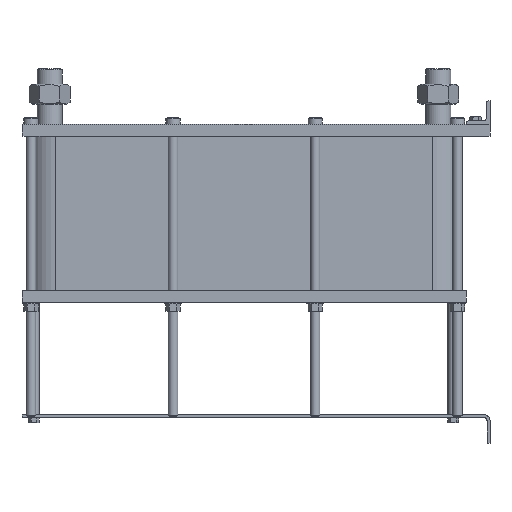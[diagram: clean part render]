
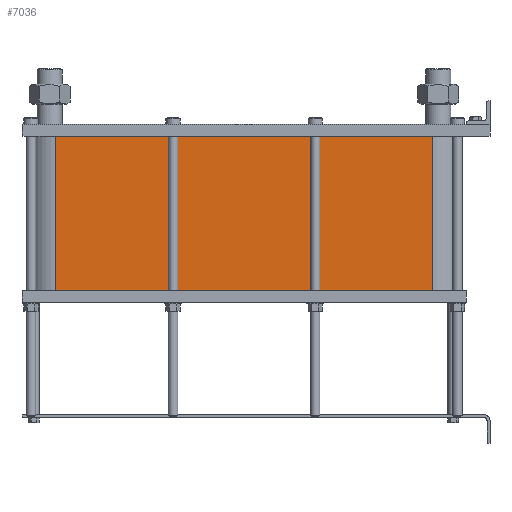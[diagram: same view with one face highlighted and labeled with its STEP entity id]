
A CAD part, left-side view. The second image highlights one B-rep face of the part: STEP entity #7036.
In plain terms, the highlighted planar face has unit normal (-1, 0, 0).
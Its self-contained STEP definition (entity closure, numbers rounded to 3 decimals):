
#999=LINE('',#15640,#1553);
#1031=LINE('',#15723,#1585);
#1032=LINE('',#15726,#1586);
#1033=LINE('',#15727,#1587);
#1553=VECTOR('',#9658,10.);
#1585=VECTOR('',#9736,10.);
#1586=VECTOR('',#9741,10.);
#1587=VECTOR('',#9742,10.);
#2117=FACE_OUTER_BOUND('',#2671,.T.);
#2671=EDGE_LOOP('',(#6246,#6247,#6248,#6249));
#3527=VERTEX_POINT('',#15634);
#3529=VERTEX_POINT('',#15638);
#3556=VERTEX_POINT('',#15720);
#3557=VERTEX_POINT('',#15722);
#4425=EDGE_CURVE('',#3529,#3527,#999,.T.);
#4466=EDGE_CURVE('',#3557,#3556,#1031,.T.);
#4468=EDGE_CURVE('',#3527,#3556,#1032,.T.);
#4469=EDGE_CURVE('',#3557,#3529,#1033,.T.);
#6246=ORIENTED_EDGE('',*,*,#4468,.F.);
#6247=ORIENTED_EDGE('',*,*,#4425,.F.);
#6248=ORIENTED_EDGE('',*,*,#4469,.F.);
#6249=ORIENTED_EDGE('',*,*,#4466,.T.);
#6608=PLANE('',#7812);
#7036=ADVANCED_FACE('',(#2117),#6608,.T.);
#7812=AXIS2_PLACEMENT_3D('',#15725,#9739,#9740);
#9658=DIRECTION('',(0.,0.,-1.));
#9736=DIRECTION('',(0.,0.,-1.));
#9739=DIRECTION('center_axis',(-1.,0.,0.));
#9740=DIRECTION('ref_axis',(0.,1.,0.));
#9741=DIRECTION('',(0.,1.,0.));
#9742=DIRECTION('',(0.,-1.,0.));
#15634=CARTESIAN_POINT('',(-72.,97.5,-260.4));
#15638=CARTESIAN_POINT('',(-72.,97.5,0.));
#15640=CARTESIAN_POINT('',(-72.,97.5,0.));
#15720=CARTESIAN_POINT('',(-72.,733.5,-260.4));
#15722=CARTESIAN_POINT('',(-72.,733.5,0.));
#15723=CARTESIAN_POINT('',(-72.,733.5,0.));
#15725=CARTESIAN_POINT('Origin',(-72.,97.5,0.));
#15726=CARTESIAN_POINT('',(-72.,256.5,-260.4));
#15727=CARTESIAN_POINT('',(-72.,733.5,0.));
